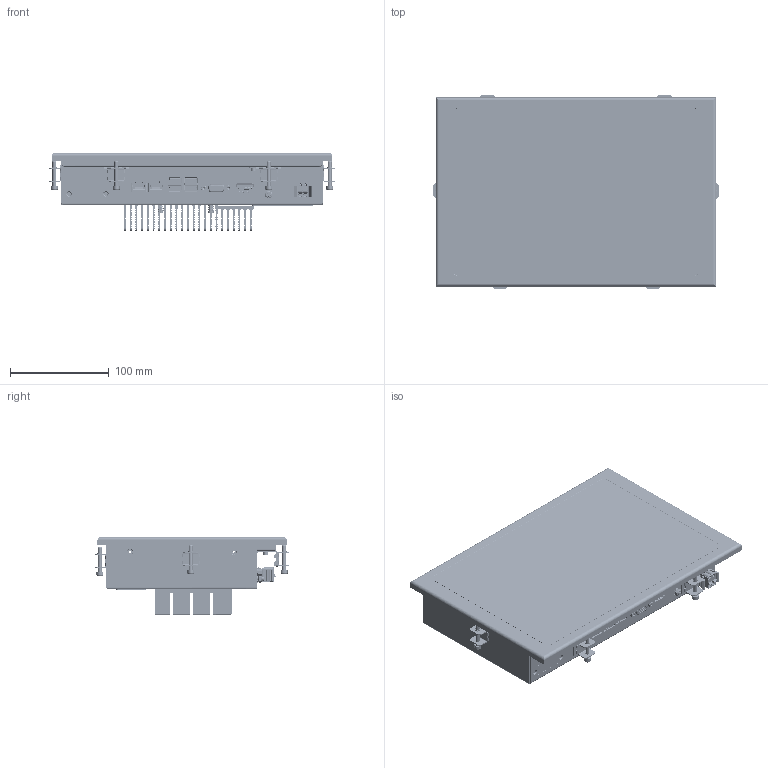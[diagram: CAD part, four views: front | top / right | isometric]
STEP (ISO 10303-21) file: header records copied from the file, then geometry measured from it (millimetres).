
FILE_DESCRIPTION(/* description */ (''),/* implementation_level */ '2;1');
FILE_NAME(/* name */ 'D:\Modelle vereinfacht\notion.C\778-11993\778-11993_EXTERN.stp',/* time_stamp */ '2022-03-10T11:14:30+01:00',/* author */ ('Blessing'),/* organization */ (''),/* preprocessor_version */ 'ST-DEVELOPER v18.1',/* originating_system */ 'Autodesk Inventor 2020',/* authorisation */ '');
FILE_SCHEMA (('AUTOMOTIVE_DESIGN { 1 0 10303 214 3 1 1 }'));
Products named in the file (1): 778-11993_EXTERN
Bounding box: 289.1 x 196.6 x 79.1 mm (x, y, z)
Volume: 2315277.6 mm3; surface area: 398112.6 mm2
Topology: 2 solids, 46 shells, 12590 faces, 35362 edges, 23150 vertices
Faces by surface type: plane 7515, cylinder 3720, bspline 1123, cone 193, torus 34, sphere 5
Full cylindrical faces by diameter (mm): 0.434 x1, 0.457 x1, 0.85 x15, 1.4 x2, 2.013 x12, 2.156 x2, 2.459 x4, 2.8 x4, 2.91 x4, 3 x6, 3.5 x6, 3.7 x12, 3.8 x6, 3.88 x4, 3.91 x2, 4 x28, 4.01 x1, 4.1 x6, 4.19 x4, 4.2 x8, 4.3 x1, 5 x6, 5.5 x2, 5.54 x6, 6 x4, 7 x6
Entity records: 466287 total; most frequent: CARTESIAN_POINT 129316, ORIENTED_EDGE 70696, DIRECTION 63999, EDGE_CURVE 35348, LINE 24273, VECTOR 24273, VERTEX_POINT 23150, AXIS2_PLACEMENT_3D 19863
